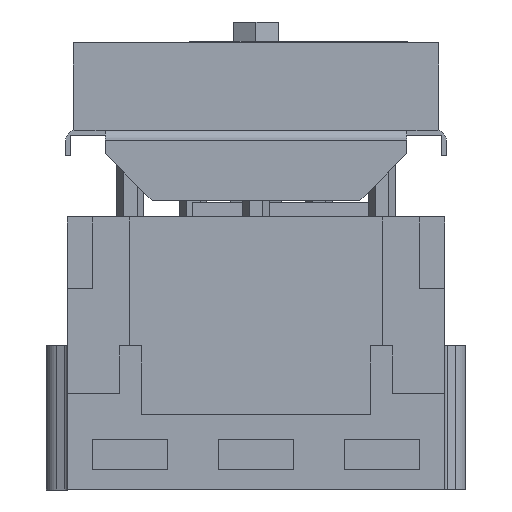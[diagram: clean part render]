
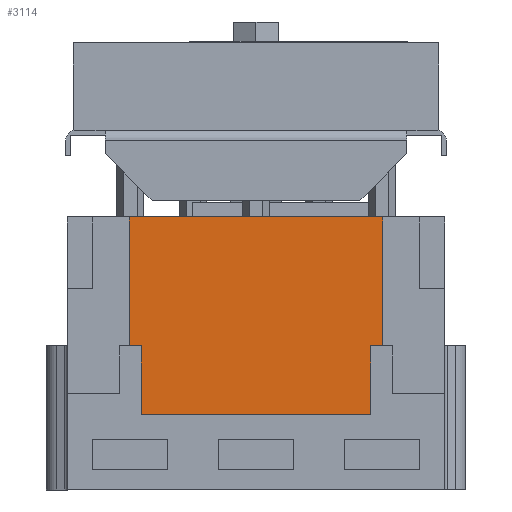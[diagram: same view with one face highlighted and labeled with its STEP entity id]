
A CAD part, front view. The second image highlights one B-rep face of the part: STEP entity #3114.
In plain terms, the highlighted planar face has unit normal (0, -1, 0).
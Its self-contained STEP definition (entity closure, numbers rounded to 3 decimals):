
#40 = EDGE_CURVE ( 'NONE', #6523, #5964, #7931, .T. ) ;
#87 = VECTOR ( 'NONE', #4927, 1000. ) ;
#211 = VERTEX_POINT ( 'NONE', #476 ) ;
#308 = VECTOR ( 'NONE', #4441, 1000. ) ;
#476 = CARTESIAN_POINT ( 'NONE',  ( -44.2, 48.3, 86. ) ) ;
#513 = LINE ( 'NONE', #7720, #308 ) ;
#608 = VERTEX_POINT ( 'NONE', #3626 ) ;
#670 = CARTESIAN_POINT ( 'NONE',  ( -188., 48.3, 171.375 ) ) ;
#727 = PLANE ( 'NONE',  #2315 ) ;
#830 = EDGE_LOOP ( 'NONE', ( #8053, #2134, #6829, #3969, #3162, #3052, #3386, #5497 ) ) ;
#948 = VERTEX_POINT ( 'NONE', #6111 ) ;
#984 = CARTESIAN_POINT ( 'NONE',  ( -225., 48.3, 162.85 ) ) ;
#1180 = LINE ( 'NONE', #984, #7804 ) ;
#1672 = DIRECTION ( 'NONE',  ( 1., 0., 0. ) ) ;
#1673 = LINE ( 'NONE', #2334, #8506 ) ;
#1810 = CARTESIAN_POINT ( 'NONE',  ( -37., 48.3, 171.375 ) ) ;
#1970 = VERTEX_POINT ( 'NONE', #2799 ) ;
#1984 = DIRECTION ( 'NONE',  ( 0., 0., -1. ) ) ;
#2040 = DIRECTION ( 'NONE',  ( 0., 0., -1. ) ) ;
#2134 = ORIENTED_EDGE ( 'NONE', *, *, #3892, .F. ) ;
#2315 = AXIS2_PLACEMENT_3D ( 'NONE', #5342, #6010, #2040 ) ;
#2334 = CARTESIAN_POINT ( 'NONE',  ( -188., 48.3, 45. ) ) ;
#2563 = CARTESIAN_POINT ( 'NONE',  ( -37., 48.3, 86. ) ) ;
#2658 = EDGE_CURVE ( 'NONE', #608, #2958, #1180, .T. ) ;
#2686 = VECTOR ( 'NONE', #4989, 1000. ) ;
#2769 = VECTOR ( 'NONE', #6441, 1000. ) ;
#2799 = CARTESIAN_POINT ( 'NONE',  ( -44.2, 48.3, 45. ) ) ;
#2889 = LINE ( 'NONE', #4320, #2686 ) ;
#2958 = VERTEX_POINT ( 'NONE', #6507 ) ;
#3052 = ORIENTED_EDGE ( 'NONE', *, *, #4248, .T. ) ;
#3114 = ADVANCED_FACE ( 'NONE', ( #7389 ), #727, .T. ) ;
#3162 = ORIENTED_EDGE ( 'NONE', *, *, #2658, .F. ) ;
#3386 = ORIENTED_EDGE ( 'NONE', *, *, #4359, .T. ) ;
#3626 = CARTESIAN_POINT ( 'NONE',  ( -188., 48.3, 162.85 ) ) ;
#3892 = EDGE_CURVE ( 'NONE', #211, #1970, #2889, .T. ) ;
#3969 = ORIENTED_EDGE ( 'NONE', *, *, #4570, .T. ) ;
#4012 = EDGE_CURVE ( 'NONE', #211, #6143, #513, .T. ) ;
#4242 = LINE ( 'NONE', #7555, #87 ) ;
#4248 = EDGE_CURVE ( 'NONE', #608, #948, #8373, .T. ) ;
#4320 = CARTESIAN_POINT ( 'NONE',  ( -44.2, 48.3, 136.071 ) ) ;
#4359 = EDGE_CURVE ( 'NONE', #948, #6523, #4242, .T. ) ;
#4422 = VECTOR ( 'NONE', #1984, 1000. ) ;
#4441 = DIRECTION ( 'NONE',  ( 1., 0., 0. ) ) ;
#4570 = EDGE_CURVE ( 'NONE', #6143, #2958, #5469, .T. ) ;
#4669 = DIRECTION ( 'NONE',  ( 0., 0., -1. ) ) ;
#4927 = DIRECTION ( 'NONE',  ( 1., 0., 0. ) ) ;
#4989 = DIRECTION ( 'NONE',  ( 0., 0., -1. ) ) ;
#5134 = CARTESIAN_POINT ( 'NONE',  ( -180.8, 48.3, 136.071 ) ) ;
#5342 = CARTESIAN_POINT ( 'NONE',  ( 0., 48.3, 0. ) ) ;
#5469 = LINE ( 'NONE', #1810, #2769 ) ;
#5497 = ORIENTED_EDGE ( 'NONE', *, *, #40, .T. ) ;
#5964 = VERTEX_POINT ( 'NONE', #7628 ) ;
#6010 = DIRECTION ( 'NONE',  ( 0., -1., 0. ) ) ;
#6111 = CARTESIAN_POINT ( 'NONE',  ( -188., 48.3, 86. ) ) ;
#6143 = VERTEX_POINT ( 'NONE', #2563 ) ;
#6441 = DIRECTION ( 'NONE',  ( 0., 0., 1. ) ) ;
#6507 = CARTESIAN_POINT ( 'NONE',  ( -37., 48.3, 162.85 ) ) ;
#6523 = VERTEX_POINT ( 'NONE', #7645 ) ;
#6612 = VECTOR ( 'NONE', #4669, 1000. ) ;
#6829 = ORIENTED_EDGE ( 'NONE', *, *, #4012, .T. ) ;
#7088 = EDGE_CURVE ( 'NONE', #5964, #1970, #1673, .T. ) ;
#7389 = FACE_OUTER_BOUND ( 'NONE', #830, .T. ) ;
#7555 = CARTESIAN_POINT ( 'NONE',  ( 0., 48.3, 86. ) ) ;
#7628 = CARTESIAN_POINT ( 'NONE',  ( -180.8, 48.3, 45. ) ) ;
#7645 = CARTESIAN_POINT ( 'NONE',  ( -180.8, 48.3, 86. ) ) ;
#7720 = CARTESIAN_POINT ( 'NONE',  ( -44.2, 48.3, 86. ) ) ;
#7804 = VECTOR ( 'NONE', #8233, 1000. ) ;
#7931 = LINE ( 'NONE', #5134, #4422 ) ;
#8053 = ORIENTED_EDGE ( 'NONE', *, *, #7088, .T. ) ;
#8233 = DIRECTION ( 'NONE',  ( 1., 0., 0. ) ) ;
#8373 = LINE ( 'NONE', #670, #6612 ) ;
#8506 = VECTOR ( 'NONE', #1672, 1000. ) ;
